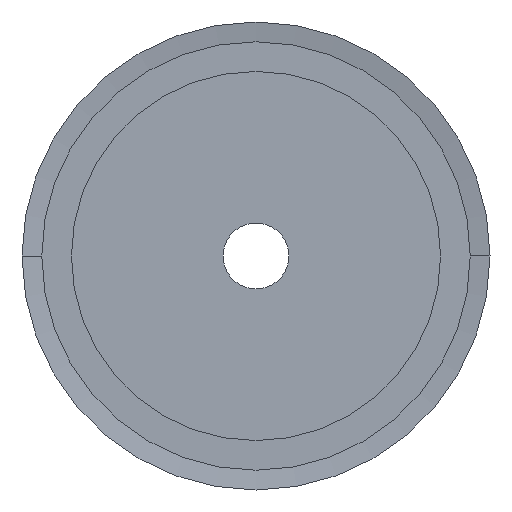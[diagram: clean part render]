
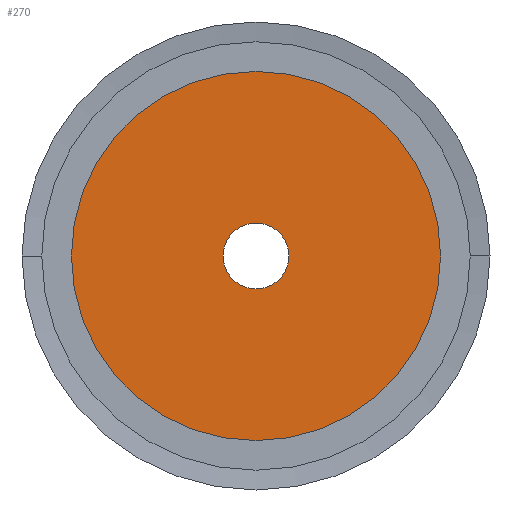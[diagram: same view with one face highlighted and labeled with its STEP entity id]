
A CAD part, left-side view. The second image highlights one B-rep face of the part: STEP entity #270.
In plain terms, the highlighted planar face has unit normal (-1, 0, 0).
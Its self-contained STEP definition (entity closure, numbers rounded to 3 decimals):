
#270 = ADVANCED_FACE( '', ( #668, #669 ), #670, .T. );
#668 = FACE_BOUND( '', #1067, .T. );
#669 = FACE_OUTER_BOUND( '', #1068, .T. );
#670 = PLANE( '', #1069 );
#1067 = EDGE_LOOP( '', ( #2769, #2770 ) );
#1068 = EDGE_LOOP( '', ( #2771, #2772 ) );
#1069 = AXIS2_PLACEMENT_3D( '', #2773, #2774, #2775 );
#2769 = ORIENTED_EDGE( '', *, *, #2819, .T. );
#2770 = ORIENTED_EDGE( '', *, *, #2815, .T. );
#2771 = ORIENTED_EDGE( '', *, *, #2779, .T. );
#2772 = ORIENTED_EDGE( '', *, *, #3334, .T. );
#2773 = CARTESIAN_POINT( '', ( 0., 14., 0. ) );
#2774 = DIRECTION( '', ( -1., 0., 0. ) );
#2775 = DIRECTION( '', ( 0., 1., 0. ) );
#2779 = EDGE_CURVE( '', #3336, #3340, #3342, .T. );
#2815 = EDGE_CURVE( '', #3408, #3405, #3409, .T. );
#2819 = EDGE_CURVE( '', #3405, #3408, #3414, .T. );
#3334 = EDGE_CURVE( '', #3340, #3336, #4263, .T. );
#3336 = VERTEX_POINT( '', #4265 );
#3340 = VERTEX_POINT( '', #4270 );
#3342 = CIRCLE( '', #4273, 28. );
#3405 = VERTEX_POINT( '', #4354 );
#3408 = VERTEX_POINT( '', #4358 );
#3409 = CIRCLE( '', #4359, 5. );
#3414 = CIRCLE( '', #4365, 5. );
#4263 = CIRCLE( '', #5507, 28. );
#4265 = CARTESIAN_POINT( '', ( 0., 28., 0. ) );
#4270 = CARTESIAN_POINT( '', ( 0., -28., 0. ) );
#4273 = AXIS2_PLACEMENT_3D( '', #5513, #5514, #5515 );
#4354 = CARTESIAN_POINT( '', ( 0., 5., 0. ) );
#4358 = CARTESIAN_POINT( '', ( 0., -5., 0. ) );
#4359 = AXIS2_PLACEMENT_3D( '', #5583, #5584, #5585 );
#4365 = AXIS2_PLACEMENT_3D( '', #5593, #5594, #5595 );
#5507 = AXIS2_PLACEMENT_3D( '', #6552, #6553, #6554 );
#5513 = CARTESIAN_POINT( '', ( 0., 0., 0. ) );
#5514 = DIRECTION( '', ( -1., 0., 0. ) );
#5515 = DIRECTION( '', ( 0., 1., 0. ) );
#5583 = CARTESIAN_POINT( '', ( 0., 0., 0. ) );
#5584 = DIRECTION( '', ( 1., 0., 0. ) );
#5585 = DIRECTION( '', ( 0., 1., 0. ) );
#5593 = CARTESIAN_POINT( '', ( 0., 0., 0. ) );
#5594 = DIRECTION( '', ( 1., 0., 0. ) );
#5595 = DIRECTION( '', ( 0., 1., 0. ) );
#6552 = CARTESIAN_POINT( '', ( 0., 0., 0. ) );
#6553 = DIRECTION( '', ( -1., 0., 0. ) );
#6554 = DIRECTION( '', ( 0., 1., 0. ) );
